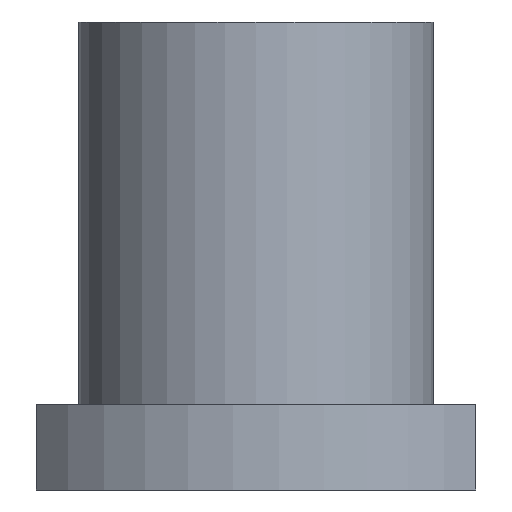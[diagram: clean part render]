
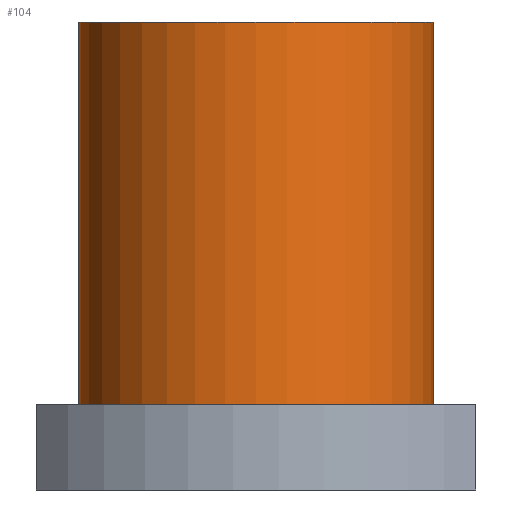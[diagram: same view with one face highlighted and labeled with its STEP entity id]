
A CAD part, front view. The second image highlights one B-rep face of the part: STEP entity #104.
In plain terms, the highlighted cylindrical face has radius 25 mm (diameter 50 mm), a full revolution.
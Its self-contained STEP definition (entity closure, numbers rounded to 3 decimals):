
#104=ADVANCED_FACE('',(#134,#135),#122,.T.);
#122=CYLINDRICAL_SURFACE('',#395,25.);
#134=FACE_BOUND('',#183,.T.);
#135=FACE_BOUND('',#184,.T.);
#183=EDGE_LOOP('',(#248));
#184=EDGE_LOOP('',(#249));
#248=ORIENTED_EDGE('',*,*,#340,.F.);
#249=ORIENTED_EDGE('',*,*,#341,.T.);
#312=VERTEX_POINT('',#590);
#313=VERTEX_POINT('',#592);
#340=EDGE_CURVE('',#312,#312,#369,.T.);
#341=EDGE_CURVE('',#313,#313,#370,.T.);
#369=CIRCLE('',#393,25.);
#370=CIRCLE('',#394,25.);
#393=AXIS2_PLACEMENT_3D('',#589,#440,#441);
#394=AXIS2_PLACEMENT_3D('',#591,#442,#443);
#395=AXIS2_PLACEMENT_3D('',#593,#444,#445);
#440=DIRECTION('',(0.,0.,-1.));
#441=DIRECTION('',(1.,0.,0.));
#442=DIRECTION('',(0.,0.,-1.));
#443=DIRECTION('',(1.,0.,0.));
#444=DIRECTION('',(0.,0.,-1.));
#445=DIRECTION('',(-1.,0.,0.));
#589=CARTESIAN_POINT('',(0.,0.,12.));
#590=CARTESIAN_POINT('',(25.,0.,12.));
#591=CARTESIAN_POINT('',(0.,0.,66.));
#592=CARTESIAN_POINT('',(25.,0.,66.));
#593=CARTESIAN_POINT('',(0.,0.,66.));
